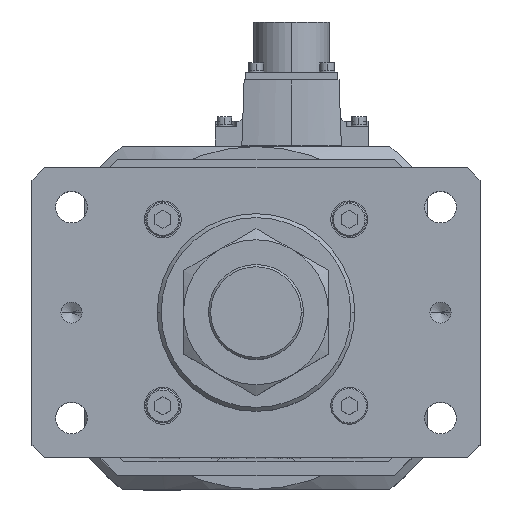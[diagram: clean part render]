
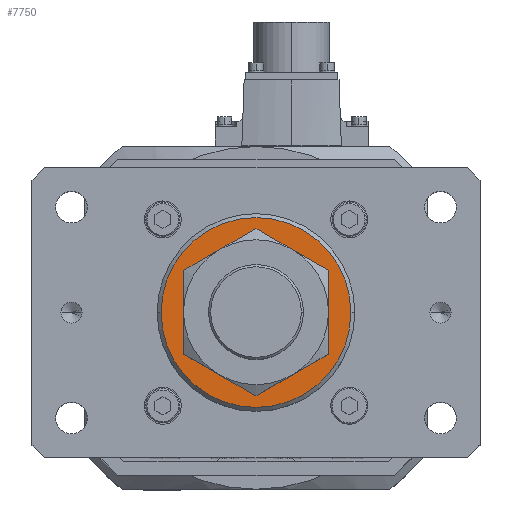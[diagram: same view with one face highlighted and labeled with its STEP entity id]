
A CAD part, top view. The second image highlights one B-rep face of the part: STEP entity #7750.
In plain terms, the highlighted planar face has unit normal (0, 0, 1).
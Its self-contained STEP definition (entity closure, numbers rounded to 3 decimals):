
#1087 = ORIENTED_EDGE ( 'NONE', *, *, #27978, .T. ) ;
#1107 = AXIS2_PLACEMENT_3D ( 'NONE', #16993, #19859, #22636 ) ;
#1204 = CIRCLE ( 'NONE', #23922, 23. ) ;
#1990 = VERTEX_POINT ( 'NONE', #18221 ) ;
#4349 = EDGE_CURVE ( 'NONE', #18994, #1990, #1204, .T. ) ;
#5409 = PLANE ( 'NONE',  #1107 ) ;
#5792 = FACE_BOUND ( 'NONE', #5963, .T. ) ;
#5963 = EDGE_LOOP ( 'NONE', ( #6480, #22975 ) ) ;
#6320 = CARTESIAN_POINT ( 'NONE',  ( 0., 0., 896. ) ) ;
#6480 = ORIENTED_EDGE ( 'NONE', *, *, #4349, .T. ) ;
#6563 = CARTESIAN_POINT ( 'NONE',  ( 36., 0., 896. ) ) ;
#6834 = ORIENTED_EDGE ( 'NONE', *, *, #22779, .T. ) ;
#7750 = ADVANCED_FACE ( 'NONE', ( #5792, #10261 ), #5409, .T. ) ;
#10261 = FACE_OUTER_BOUND ( 'NONE', #34229, .T. ) ;
#11577 = CARTESIAN_POINT ( 'NONE',  ( 0., 0., 896. ) ) ;
#12413 = DIRECTION ( 'NONE',  ( 1., 0., 0. ) ) ;
#13904 = VERTEX_POINT ( 'NONE', #6563 ) ;
#14044 = DIRECTION ( 'NONE',  ( 1., 0., 0. ) ) ;
#14926 = DIRECTION ( 'NONE',  ( 0., 0., -1. ) ) ;
#15274 = DIRECTION ( 'NONE',  ( 1., 0., 0. ) ) ;
#15995 = AXIS2_PLACEMENT_3D ( 'NONE', #21903, #30524, #30015 ) ;
#16100 = CIRCLE ( 'NONE', #23823, 23. ) ;
#16993 = CARTESIAN_POINT ( 'NONE',  ( 0., 0., 896. ) ) ;
#18221 = CARTESIAN_POINT ( 'NONE',  ( -23., 0., 896. ) ) ;
#18378 = CARTESIAN_POINT ( 'NONE',  ( -36., 0., 896. ) ) ;
#18451 = DIRECTION ( 'NONE',  ( 0., 0., -1. ) ) ;
#18994 = VERTEX_POINT ( 'NONE', #23737 ) ;
#19859 = DIRECTION ( 'NONE',  ( 0., 0., 1. ) ) ;
#21903 = CARTESIAN_POINT ( 'NONE',  ( 0., 0., 896. ) ) ;
#22636 = DIRECTION ( 'NONE',  ( 1., 0., 0. ) ) ;
#22779 = EDGE_CURVE ( 'NONE', #13904, #30327, #35459, .T. ) ;
#22975 = ORIENTED_EDGE ( 'NONE', *, *, #24743, .T. ) ;
#23737 = CARTESIAN_POINT ( 'NONE',  ( 23., 0., 896. ) ) ;
#23823 = AXIS2_PLACEMENT_3D ( 'NONE', #29928, #18451, #14044 ) ;
#23922 = AXIS2_PLACEMENT_3D ( 'NONE', #6320, #14926, #15274 ) ;
#24743 = EDGE_CURVE ( 'NONE', #1990, #18994, #16100, .T. ) ;
#27978 = EDGE_CURVE ( 'NONE', #30327, #13904, #34432, .T. ) ;
#29928 = CARTESIAN_POINT ( 'NONE',  ( 0., 0., 896. ) ) ;
#30015 = DIRECTION ( 'NONE',  ( 1., 0., 0. ) ) ;
#30327 = VERTEX_POINT ( 'NONE', #18378 ) ;
#30524 = DIRECTION ( 'NONE',  ( 0., 0., 1. ) ) ;
#31520 = DIRECTION ( 'NONE',  ( 0., 0., 1. ) ) ;
#33522 = AXIS2_PLACEMENT_3D ( 'NONE', #11577, #31520, #12413 ) ;
#34229 = EDGE_LOOP ( 'NONE', ( #1087, #6834 ) ) ;
#34432 = CIRCLE ( 'NONE', #15995, 36. ) ;
#35459 = CIRCLE ( 'NONE', #33522, 36. ) ;
